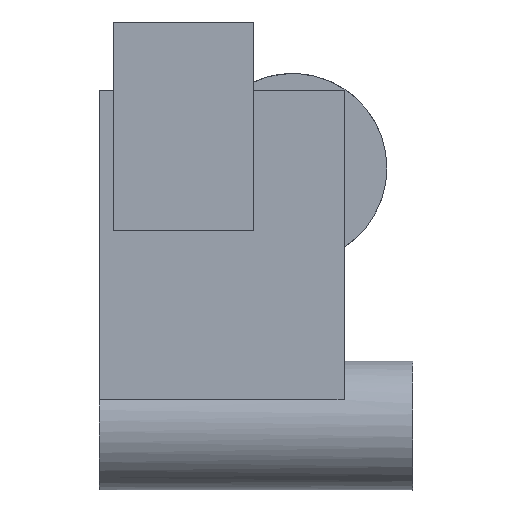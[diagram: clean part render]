
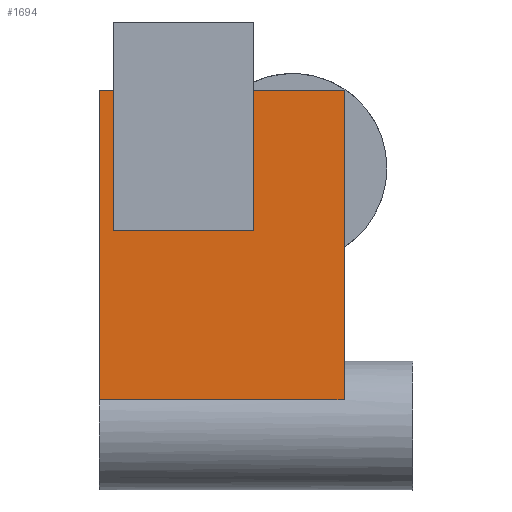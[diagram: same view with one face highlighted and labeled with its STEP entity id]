
A CAD part, front view. The second image highlights one B-rep face of the part: STEP entity #1694.
In plain terms, the highlighted planar face has unit normal (0, -1, 0).
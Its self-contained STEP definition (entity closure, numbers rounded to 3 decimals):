
#122 = PLANE('',#123);
#123 = AXIS2_PLACEMENT_3D('',#124,#125,#126);
#124 = CARTESIAN_POINT('',(-45.,-27.,18.));
#125 = DIRECTION('',(0.,0.,1.));
#126 = DIRECTION('',(1.,0.,0.));
#177 = PLANE('',#178);
#178 = AXIS2_PLACEMENT_3D('',#179,#180,#181);
#179 = CARTESIAN_POINT('',(12.,-27.,-54.));
#180 = DIRECTION('',(1.,0.,0.));
#181 = DIRECTION('',(0.,0.,1.));
#562 = VERTEX_POINT('',#563);
#563 = CARTESIAN_POINT('',(12.,-27.,18.));
#584 = EDGE_CURVE('',#585,#562,#587,.T.);
#585 = VERTEX_POINT('',#586);
#586 = CARTESIAN_POINT('',(12.,-27.,-54.));
#587 = SURFACE_CURVE('',#588,(#592,#599),.PCURVE_S1.);
#588 = LINE('',#589,#590);
#589 = CARTESIAN_POINT('',(12.,-27.,-54.));
#590 = VECTOR('',#591,1.);
#591 = DIRECTION('',(0.,0.,1.));
#592 = PCURVE('',#177,#593);
#593 = DEFINITIONAL_REPRESENTATION('',(#594),#598);
#594 = LINE('',#595,#596);
#595 = CARTESIAN_POINT('',(0.,0.));
#596 = VECTOR('',#597,1.);
#597 = DIRECTION('',(1.,0.));
#598 = ( GEOMETRIC_REPRESENTATION_CONTEXT(2) 
PARAMETRIC_REPRESENTATION_CONTEXT() REPRESENTATION_CONTEXT('2D SPACE',''
  ) );
#599 = PCURVE('',#600,#605);
#600 = PLANE('',#601);
#601 = AXIS2_PLACEMENT_3D('',#602,#603,#604);
#602 = CARTESIAN_POINT('',(-45.,-27.,-54.));
#603 = DIRECTION('',(0.,1.,0.));
#604 = DIRECTION('',(0.,0.,1.));
#605 = DEFINITIONAL_REPRESENTATION('',(#606),#610);
#606 = LINE('',#607,#608);
#607 = CARTESIAN_POINT('',(0.,57.));
#608 = VECTOR('',#609,1.);
#609 = DIRECTION('',(1.,0.));
#610 = ( GEOMETRIC_REPRESENTATION_CONTEXT(2) 
PARAMETRIC_REPRESENTATION_CONTEXT() REPRESENTATION_CONTEXT('2D SPACE',''
  ) );
#628 = PLANE('',#629);
#629 = AXIS2_PLACEMENT_3D('',#630,#631,#632);
#630 = CARTESIAN_POINT('',(-45.,-27.,-54.));
#631 = DIRECTION('',(0.,0.,1.));
#632 = DIRECTION('',(1.,0.,0.));
#767 = PLANE('',#768);
#768 = AXIS2_PLACEMENT_3D('',#769,#770,#771);
#769 = CARTESIAN_POINT('',(-45.,-27.,-54.));
#770 = DIRECTION('',(1.,0.,0.));
#771 = DIRECTION('',(0.,0.,1.));
#805 = VERTEX_POINT('',#806);
#806 = CARTESIAN_POINT('',(-9.,-27.,18.));
#821 = PLANE('',#822);
#822 = AXIS2_PLACEMENT_3D('',#823,#824,#825);
#823 = CARTESIAN_POINT('',(-9.,-27.2,-14.5));
#824 = DIRECTION('',(-1.,0.,0.));
#825 = DIRECTION('',(0.,0.,1.));
#832 = EDGE_CURVE('',#805,#562,#833,.T.);
#833 = SURFACE_CURVE('',#834,(#838,#845),.PCURVE_S1.);
#834 = LINE('',#835,#836);
#835 = CARTESIAN_POINT('',(-45.,-27.,18.));
#836 = VECTOR('',#837,1.);
#837 = DIRECTION('',(1.,0.,0.));
#838 = PCURVE('',#122,#839);
#839 = DEFINITIONAL_REPRESENTATION('',(#840),#844);
#840 = LINE('',#841,#842);
#841 = CARTESIAN_POINT('',(0.,0.));
#842 = VECTOR('',#843,1.);
#843 = DIRECTION('',(1.,0.));
#844 = ( GEOMETRIC_REPRESENTATION_CONTEXT(2) 
PARAMETRIC_REPRESENTATION_CONTEXT() REPRESENTATION_CONTEXT('2D SPACE',''
  ) );
#845 = PCURVE('',#600,#846);
#846 = DEFINITIONAL_REPRESENTATION('',(#847),#851);
#847 = LINE('',#848,#849);
#848 = CARTESIAN_POINT('',(72.,0.));
#849 = VECTOR('',#850,1.);
#850 = DIRECTION('',(0.,1.));
#851 = ( GEOMETRIC_REPRESENTATION_CONTEXT(2) 
PARAMETRIC_REPRESENTATION_CONTEXT() REPRESENTATION_CONTEXT('2D SPACE',''
  ) );
#1650 = VERTEX_POINT('',#1651);
#1651 = CARTESIAN_POINT('',(-45.,-27.,-54.));
#1672 = EDGE_CURVE('',#1650,#585,#1673,.T.);
#1673 = SURFACE_CURVE('',#1674,(#1678,#1685),.PCURVE_S1.);
#1674 = LINE('',#1675,#1676);
#1675 = CARTESIAN_POINT('',(-45.,-27.,-54.));
#1676 = VECTOR('',#1677,1.);
#1677 = DIRECTION('',(1.,0.,0.));
#1678 = PCURVE('',#628,#1679);
#1679 = DEFINITIONAL_REPRESENTATION('',(#1680),#1684);
#1680 = LINE('',#1681,#1682);
#1681 = CARTESIAN_POINT('',(0.,0.));
#1682 = VECTOR('',#1683,1.);
#1683 = DIRECTION('',(1.,0.));
#1684 = ( GEOMETRIC_REPRESENTATION_CONTEXT(2) 
PARAMETRIC_REPRESENTATION_CONTEXT() REPRESENTATION_CONTEXT('2D SPACE',''
  ) );
#1685 = PCURVE('',#600,#1686);
#1686 = DEFINITIONAL_REPRESENTATION('',(#1687),#1691);
#1687 = LINE('',#1688,#1689);
#1688 = CARTESIAN_POINT('',(0.,0.));
#1689 = VECTOR('',#1690,1.);
#1690 = DIRECTION('',(0.,1.));
#1691 = ( GEOMETRIC_REPRESENTATION_CONTEXT(2) 
PARAMETRIC_REPRESENTATION_CONTEXT() REPRESENTATION_CONTEXT('2D SPACE',''
  ) );
#1694 = ADVANCED_FACE('',(#1695),#600,.F.);
#1695 = FACE_BOUND('',#1696,.F.);
#1696 = EDGE_LOOP('',(#1697,#1698,#1699,#1722,#1750,#1776,#1802,#1821));
#1697 = ORIENTED_EDGE('',*,*,#584,.F.);
#1698 = ORIENTED_EDGE('',*,*,#1672,.F.);
#1699 = ORIENTED_EDGE('',*,*,#1700,.T.);
#1700 = EDGE_CURVE('',#1650,#1701,#1703,.T.);
#1701 = VERTEX_POINT('',#1702);
#1702 = CARTESIAN_POINT('',(-45.,-27.,18.));
#1703 = SURFACE_CURVE('',#1704,(#1708,#1715),.PCURVE_S1.);
#1704 = LINE('',#1705,#1706);
#1705 = CARTESIAN_POINT('',(-45.,-27.,-54.));
#1706 = VECTOR('',#1707,1.);
#1707 = DIRECTION('',(0.,0.,1.));
#1708 = PCURVE('',#600,#1709);
#1709 = DEFINITIONAL_REPRESENTATION('',(#1710),#1714);
#1710 = LINE('',#1711,#1712);
#1711 = CARTESIAN_POINT('',(0.,0.));
#1712 = VECTOR('',#1713,1.);
#1713 = DIRECTION('',(1.,0.));
#1714 = ( GEOMETRIC_REPRESENTATION_CONTEXT(2) 
PARAMETRIC_REPRESENTATION_CONTEXT() REPRESENTATION_CONTEXT('2D SPACE',''
  ) );
#1715 = PCURVE('',#767,#1716);
#1716 = DEFINITIONAL_REPRESENTATION('',(#1717),#1721);
#1717 = LINE('',#1718,#1719);
#1718 = CARTESIAN_POINT('',(0.,0.));
#1719 = VECTOR('',#1720,1.);
#1720 = DIRECTION('',(1.,0.));
#1721 = ( GEOMETRIC_REPRESENTATION_CONTEXT(2) 
PARAMETRIC_REPRESENTATION_CONTEXT() REPRESENTATION_CONTEXT('2D SPACE',''
  ) );
#1722 = ORIENTED_EDGE('',*,*,#1723,.T.);
#1723 = EDGE_CURVE('',#1701,#1724,#1726,.T.);
#1724 = VERTEX_POINT('',#1725);
#1725 = CARTESIAN_POINT('',(-41.7,-27.,18.));
#1726 = SURFACE_CURVE('',#1727,(#1731,#1738),.PCURVE_S1.);
#1727 = LINE('',#1728,#1729);
#1728 = CARTESIAN_POINT('',(-45.,-27.,18.));
#1729 = VECTOR('',#1730,1.);
#1730 = DIRECTION('',(1.,0.,0.));
#1731 = PCURVE('',#600,#1732);
#1732 = DEFINITIONAL_REPRESENTATION('',(#1733),#1737);
#1733 = LINE('',#1734,#1735);
#1734 = CARTESIAN_POINT('',(72.,0.));
#1735 = VECTOR('',#1736,1.);
#1736 = DIRECTION('',(0.,1.));
#1737 = ( GEOMETRIC_REPRESENTATION_CONTEXT(2) 
PARAMETRIC_REPRESENTATION_CONTEXT() REPRESENTATION_CONTEXT('2D SPACE',''
  ) );
#1738 = PCURVE('',#1739,#1744);
#1739 = PLANE('',#1740);
#1740 = AXIS2_PLACEMENT_3D('',#1741,#1742,#1743);
#1741 = CARTESIAN_POINT('',(-45.,-27.,18.));
#1742 = DIRECTION('',(0.,0.,1.));
#1743 = DIRECTION('',(1.,0.,0.));
#1744 = DEFINITIONAL_REPRESENTATION('',(#1745),#1749);
#1745 = LINE('',#1746,#1747);
#1746 = CARTESIAN_POINT('',(0.,0.));
#1747 = VECTOR('',#1748,1.);
#1748 = DIRECTION('',(1.,0.));
#1749 = ( GEOMETRIC_REPRESENTATION_CONTEXT(2) 
PARAMETRIC_REPRESENTATION_CONTEXT() REPRESENTATION_CONTEXT('2D SPACE',''
  ) );
#1750 = ORIENTED_EDGE('',*,*,#1751,.T.);
#1751 = EDGE_CURVE('',#1724,#1752,#1754,.T.);
#1752 = VERTEX_POINT('',#1753);
#1753 = CARTESIAN_POINT('',(-41.7,-27.,-14.5));
#1754 = SURFACE_CURVE('',#1755,(#1759,#1765),.PCURVE_S1.);
#1755 = LINE('',#1756,#1757);
#1756 = CARTESIAN_POINT('',(-41.7,-27.,-34.25));
#1757 = VECTOR('',#1758,1.);
#1758 = DIRECTION('',(0.,0.,-1.));
#1759 = PCURVE('',#600,#1760);
#1760 = DEFINITIONAL_REPRESENTATION('',(#1761),#1764);
#1761 = B_SPLINE_CURVE_WITH_KNOTS('',1,(#1762,#1763),.UNSPECIFIED.,.F.,
  .F.,(2,2),(-52.25,-19.75),.PIECEWISE_BEZIER_KNOTS.);
#1762 = CARTESIAN_POINT('',(72.,3.3));
#1763 = CARTESIAN_POINT('',(39.5,3.3));
#1764 = ( GEOMETRIC_REPRESENTATION_CONTEXT(2) 
PARAMETRIC_REPRESENTATION_CONTEXT() REPRESENTATION_CONTEXT('2D SPACE',''
  ) );
#1765 = PCURVE('',#1766,#1771);
#1766 = PLANE('',#1767);
#1767 = AXIS2_PLACEMENT_3D('',#1768,#1769,#1770);
#1768 = CARTESIAN_POINT('',(-41.7,-27.2,-14.5));
#1769 = DIRECTION('',(-1.,0.,0.));
#1770 = DIRECTION('',(0.,0.,1.));
#1771 = DEFINITIONAL_REPRESENTATION('',(#1772),#1775);
#1772 = B_SPLINE_CURVE_WITH_KNOTS('',1,(#1773,#1774),.UNSPECIFIED.,.F.,
  .F.,(2,2),(-52.25,-19.75),.PIECEWISE_BEZIER_KNOTS.);
#1773 = CARTESIAN_POINT('',(32.5,0.2));
#1774 = CARTESIAN_POINT('',(0.,0.2));
#1775 = ( GEOMETRIC_REPRESENTATION_CONTEXT(2) 
PARAMETRIC_REPRESENTATION_CONTEXT() REPRESENTATION_CONTEXT('2D SPACE',''
  ) );
#1776 = ORIENTED_EDGE('',*,*,#1777,.F.);
#1777 = EDGE_CURVE('',#1778,#1752,#1780,.T.);
#1778 = VERTEX_POINT('',#1779);
#1779 = CARTESIAN_POINT('',(-9.,-27.,-14.5));
#1780 = SURFACE_CURVE('',#1781,(#1785,#1791),.PCURVE_S1.);
#1781 = LINE('',#1782,#1783);
#1782 = CARTESIAN_POINT('',(-27.,-27.,-14.5));
#1783 = VECTOR('',#1784,1.);
#1784 = DIRECTION('',(-1.,0.,0.));
#1785 = PCURVE('',#600,#1786);
#1786 = DEFINITIONAL_REPRESENTATION('',(#1787),#1790);
#1787 = B_SPLINE_CURVE_WITH_KNOTS('',1,(#1788,#1789),.UNSPECIFIED.,.F.,
  .F.,(2,2),(-18.,14.7),.PIECEWISE_BEZIER_KNOTS.);
#1788 = CARTESIAN_POINT('',(39.5,36.));
#1789 = CARTESIAN_POINT('',(39.5,3.3));
#1790 = ( GEOMETRIC_REPRESENTATION_CONTEXT(2) 
PARAMETRIC_REPRESENTATION_CONTEXT() REPRESENTATION_CONTEXT('2D SPACE',''
  ) );
#1791 = PCURVE('',#1792,#1797);
#1792 = PLANE('',#1793);
#1793 = AXIS2_PLACEMENT_3D('',#1794,#1795,#1796);
#1794 = CARTESIAN_POINT('',(-9.,-27.2,-14.5));
#1795 = DIRECTION('',(0.,0.,1.));
#1796 = DIRECTION('',(-1.,0.,0.));
#1797 = DEFINITIONAL_REPRESENTATION('',(#1798),#1801);
#1798 = B_SPLINE_CURVE_WITH_KNOTS('',1,(#1799,#1800),.UNSPECIFIED.,.F.,
  .F.,(2,2),(-18.,14.7),.PIECEWISE_BEZIER_KNOTS.);
#1799 = CARTESIAN_POINT('',(0.,-0.2));
#1800 = CARTESIAN_POINT('',(32.7,-0.2));
#1801 = ( GEOMETRIC_REPRESENTATION_CONTEXT(2) 
PARAMETRIC_REPRESENTATION_CONTEXT() REPRESENTATION_CONTEXT('2D SPACE',''
  ) );
#1802 = ORIENTED_EDGE('',*,*,#1803,.F.);
#1803 = EDGE_CURVE('',#805,#1778,#1804,.T.);
#1804 = SURFACE_CURVE('',#1805,(#1809,#1815),.PCURVE_S1.);
#1805 = LINE('',#1806,#1807);
#1806 = CARTESIAN_POINT('',(-9.,-27.,-34.25));
#1807 = VECTOR('',#1808,1.);
#1808 = DIRECTION('',(0.,0.,-1.));
#1809 = PCURVE('',#600,#1810);
#1810 = DEFINITIONAL_REPRESENTATION('',(#1811),#1814);
#1811 = B_SPLINE_CURVE_WITH_KNOTS('',1,(#1812,#1813),.UNSPECIFIED.,.F.,
  .F.,(2,2),(-52.25,-19.75),.PIECEWISE_BEZIER_KNOTS.);
#1812 = CARTESIAN_POINT('',(72.,36.));
#1813 = CARTESIAN_POINT('',(39.5,36.));
#1814 = ( GEOMETRIC_REPRESENTATION_CONTEXT(2) 
PARAMETRIC_REPRESENTATION_CONTEXT() REPRESENTATION_CONTEXT('2D SPACE',''
  ) );
#1815 = PCURVE('',#821,#1816);
#1816 = DEFINITIONAL_REPRESENTATION('',(#1817),#1820);
#1817 = B_SPLINE_CURVE_WITH_KNOTS('',1,(#1818,#1819),.UNSPECIFIED.,.F.,
  .F.,(2,2),(-52.25,-19.75),.PIECEWISE_BEZIER_KNOTS.);
#1818 = CARTESIAN_POINT('',(32.5,0.2));
#1819 = CARTESIAN_POINT('',(0.,0.2));
#1820 = ( GEOMETRIC_REPRESENTATION_CONTEXT(2) 
PARAMETRIC_REPRESENTATION_CONTEXT() REPRESENTATION_CONTEXT('2D SPACE',''
  ) );
#1821 = ORIENTED_EDGE('',*,*,#832,.T.);
